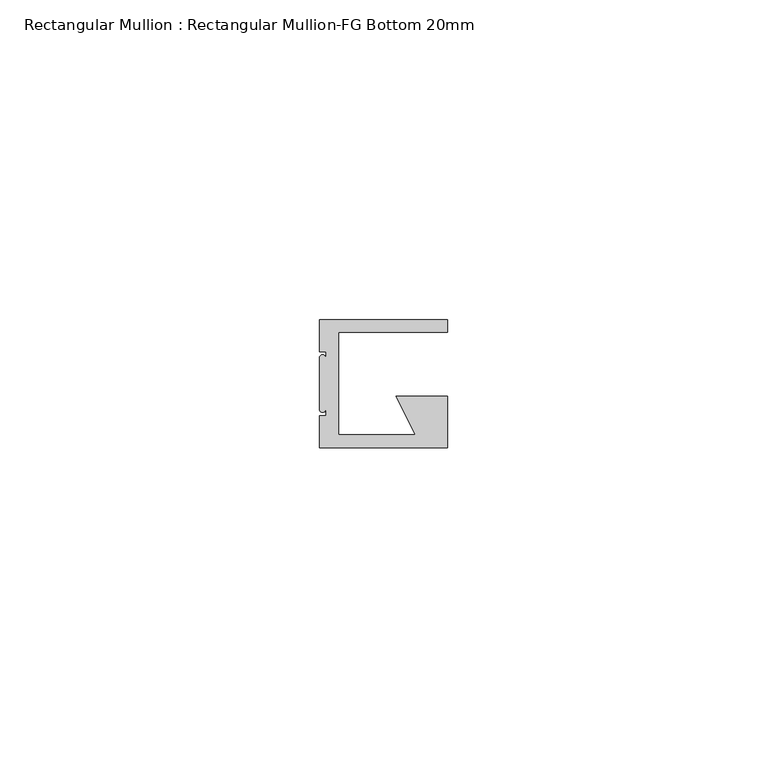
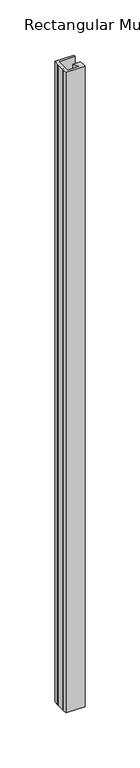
"""IFC4 building model written with IfcOpenShell, lengths in millimetres: member geometry, Rectangular Mullion : Rectangular Mullion-FG Bottom 20mm."""

from ifc_helpers import new_model, si_unit, frame, origin, place, context, project, spatial, circle_curve, source, transform, mapped, element, save
from ifc_brep_helpers import plane_surface, cylinder_surface, advanced_brep


def rectangular_mullion_rectangular_mullion_fg_bottom_20mm_2a522555(model_context):
    return source(origin(), model_context, "Body", "AdvancedBrep", [
        advanced_brep(
        [(-20.0, -5.0, 0.0), (-19.0, -5.0, 0.0), (-19.0, -6.0, 0.0), (-20.0, -6.0, 0.0), (-20.0, -14.0, 0.0), (-19.0, -14.0, 0.0), (-19.0, -15.0, 0.0), (-20.0, -15.0, 0.0), (-20.0, -20.0, 0.0), (0.0, -20.0, 0.0), (0.0, -18.0, 0.0), (0.0, -12.0, 0.0), (-8.0, -12.0, 0.0), (-5.0, -18.0, 0.0), (-17.0, -18.0, 0.0), (-17.0, -2.0, 0.0), (0.0, -2.0, 0.0), (0.0, 0.0, 0.0), (-20.0, 0.0, 0.0), (-20.0, -5.0, -710.0), (-20.0, 0.0, -710.0), (0.0, 0.0, -710.0), (0.0, -2.0, -710.0), (-17.0, -2.0, -710.0), (-17.0, -18.0, -710.0), (-5.0, -18.0, -710.0), (-8.0, -12.0, -710.0), (0.0, -12.0, -710.0), (0.0, -18.0, -710.0), (0.0, -20.0, -710.0), (-20.0, -20.0, -710.0), (-20.0, -15.0, -710.0), (-19.0, -15.0, -710.0), (-19.0, -14.0, -710.0), (-20.0, -14.0, -710.0), (-20.0, -6.0, -710.0), (-19.0, -6.0, -710.0), (-19.0, -5.0, -710.0)],
        [
            (0, 1),
            (1, 2),
            (2, 3, circle_curve(frame((-19.5, -6.0, 0.0), z_axis=(0.0, 0.0, 1.0), x_axis=(-1.0, 0.0, 0.0)), 0.5)),
            (3, 4),
            (4, 5, circle_curve(frame((-19.5, -14.0, 0.0), z_axis=(0.0, 0.0, 1.0), x_axis=(-1.0, 0.0, 0.0)), 0.5)),
            (5, 6),
            (6, 7),
            (7, 8),
            (8, 9),
            (9, 10),
            (10, 11),
            (11, 12),
            (12, 13),
            (13, 14),
            (14, 15),
            (15, 16),
            (16, 17),
            (17, 18),
            (18, 0),
            (19, 20),
            (20, 21),
            (21, 22),
            (22, 23),
            (23, 24),
            (24, 25),
            (25, 26),
            (26, 27),
            (27, 28),
            (28, 29),
            (29, 30),
            (30, 31),
            (31, 32),
            (32, 33),
            (33, 34, circle_curve(frame((-19.5, -14.0, -710.0), z_axis=(0.0, 0.0, -1.0), x_axis=(-1.0, 0.0, 0.0)), 0.5)),
            (34, 35),
            (35, 36, circle_curve(frame((-19.5, -6.0, -710.0), z_axis=(0.0, 0.0, -1.0), x_axis=(-1.0, 0.0, 0.0)), 0.5)),
            (36, 37),
            (37, 19),
            (0, 19),
            (37, 1),
            (36, 2),
            (35, 3),
            (34, 4),
            (33, 5),
            (32, 6),
            (31, 7),
            (30, 8),
            (29, 9),
            (28, 10),
            (27, 11),
            (26, 12),
            (25, 13),
            (24, 14),
            (23, 15),
            (22, 16),
            (21, 17),
            (20, 18),
        ],
        [
            plane_surface(frame((0.0, -28.2842712, 0.0), z_axis=(0.0, 0.0, 1.0), x_axis=(-1.0, 0.0, 0.0))),
            plane_surface(frame((0.0, -28.2842712, -710.0), z_axis=(0.0, 0.0, -1.0), x_axis=(-1.0, 0.0, 0.0))),
            plane_surface(frame((-20.0, -5.0, 0.0), z_axis=(0.0, -1.0, 0.0), x_axis=(0.0, 0.0, -1.0))),
            plane_surface(frame((-19.0, -5.0, 0.0), z_axis=(-1.0, 0.0, 0.0), x_axis=(0.0, 0.0, -1.0))),
            cylinder_surface(frame((-19.5, -6.0, 0.0), z_axis=(0.0, 0.0, 1.0), x_axis=(-1.0, 0.0, 0.0)), 0.5),
            plane_surface(frame((-20.0, -6.0, 0.0), z_axis=(-1.0, 0.0, 0.0), x_axis=(0.0, 0.0, -1.0))),
            cylinder_surface(frame((-19.5, -14.0, 0.0), z_axis=(0.0, 0.0, 1.0), x_axis=(-1.0, 0.0, 0.0)), 0.5),
            plane_surface(frame((-19.0, -14.0, 0.0), z_axis=(-1.0, 0.0, 0.0), x_axis=(0.0, 0.0, -1.0))),
            plane_surface(frame((-19.0, -15.0, 0.0), z_axis=(0.0, 1.0, 0.0), x_axis=(0.0, 0.0, -1.0))),
            plane_surface(frame((-20.0, -15.0, 0.0), z_axis=(-1.0, 0.0, 0.0), x_axis=(0.0, 0.0, -1.0))),
            plane_surface(frame((-20.0, -20.0, 0.0), z_axis=(0.0, -1.0, 0.0), x_axis=(0.0, 0.0, -1.0))),
            plane_surface(frame((0.0, -20.0, 0.0), z_axis=(1.0, 0.0, 0.0), x_axis=(0.0, 0.0, -1.0))),
            plane_surface(frame((0.0, -18.0, 0.0), z_axis=(1.0, 0.0, 0.0), x_axis=(0.0, 0.0, -1.0))),
            plane_surface(frame((0.0, -12.0, 0.0), z_axis=(0.0, 1.0, 0.0), x_axis=(0.0, 0.0, -1.0))),
            plane_surface(frame((-8.0, -12.0, 0.0), z_axis=(-0.8944271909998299, -0.4472135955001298, 0.0), x_axis=(0.0, 0.0, -1.0))),
            plane_surface(frame((-5.0, -18.0, 0.0), z_axis=(0.0, 1.0, 0.0), x_axis=(0.0, 0.0, -1.0))),
            plane_surface(frame((-17.0, -18.0, 0.0), z_axis=(1.0, 0.0, 0.0), x_axis=(0.0, 0.0, -1.0))),
            plane_surface(frame((-17.0, -2.0, 0.0), z_axis=(0.0, -1.0, 0.0), x_axis=(0.0, 0.0, -1.0))),
            plane_surface(frame((0.0, -2.0, 0.0), z_axis=(1.0, 0.0, 0.0), x_axis=(0.0, 0.0, -1.0))),
            plane_surface(frame((0.0, 0.0, 0.0), z_axis=(0.0, 1.0, 0.0), x_axis=(0.0, 0.0, -1.0))),
            plane_surface(frame((-20.0, 0.0, 0.0), z_axis=(-1.0, 0.0, 0.0), x_axis=(0.0, 0.0, -1.0))),
        ],
        [
            (0, [[1, 2, 3, 4, 5, 6, 7, 8, 9, 10, 11, 12, 13, 14, 15, 16, 17, 18, 19]]),
            (1, [[20, 21, 22, 23, 24, 25, 26, 27, 28, 29, 30, 31, 32, 33, 34, 35, 36, 37, 38]]),
            (2, [[-1, 39, -38, 40]]),
            (3, [[-2, -40, -37, 41]]),
            (4, [[-3, -41, -36, 42]]),
            (5, [[-4, -42, -35, 43]]),
            (6, [[-5, -43, -34, 44]]),
            (7, [[-6, -44, -33, 45]]),
            (8, [[-7, -45, -32, 46]]),
            (9, [[-8, -46, -31, 47]]),
            (10, [[-9, -47, -30, 48]]),
            (11, [[-10, -48, -29, 49]]),
            (12, [[-11, -49, -28, 50]]),
            (13, [[-12, -50, -27, 51]]),
            (14, [[-13, -51, -26, 52]]),
            (15, [[-14, -52, -25, 53]]),
            (16, [[-15, -53, -24, 54]]),
            (17, [[-16, -54, -23, 55]]),
            (18, [[-17, -55, -22, 56]]),
            (19, [[-18, -56, -21, 57]]),
            (20, [[-19, -57, -20, -39]]),
        ],
    ),
    ])


if __name__ == "__main__":
    model = new_model("IFC4")
    model_context = context("Model", 3, world=origin())
    ifc_project = project(units=[si_unit("LENGTHUNIT", "METRE", prefix="MILLI")], contexts=[model_context])
    site = spatial("IfcSite", under=ifc_project)
    building = spatial("IfcBuilding", under=site)
    placement = place(None, origin())
    rectangular_mullion_rectangular_mullion_fg_bottom_20mm_shape = rectangular_mullion_rectangular_mullion_fg_bottom_20mm_2a522555(model_context)
    element("IfcMember", 1, ObjectType="Rectangular Mullion : Rectangular Mullion-FG Bottom 20mm", at=placement, inside=building, context=model_context, shape_type="MappedRepresentation", body=[
        mapped(rectangular_mullion_rectangular_mullion_fg_bottom_20mm_shape, transform((0.0, 0.0, 0.0), x_axis=(1.0, 0.0, 0.0), y_axis=(0.0, 1.0, 0.0), z_axis=(0.0, 0.0, 1.0))),
    ])
    save(model, "model.ifc")
